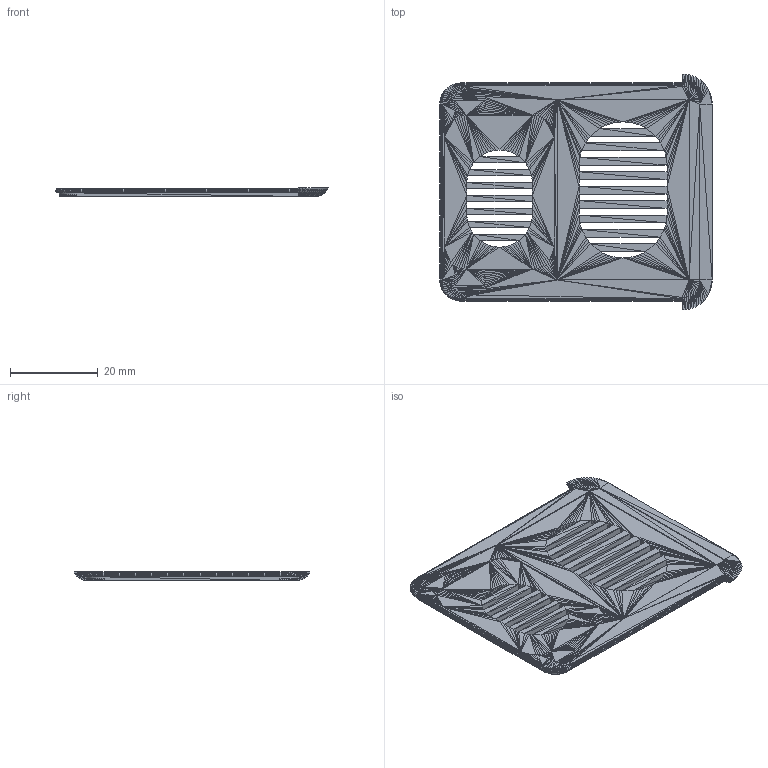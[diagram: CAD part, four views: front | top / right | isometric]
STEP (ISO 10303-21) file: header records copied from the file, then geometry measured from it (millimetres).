
FILE_DESCRIPTION((''),'2;1');
FILE_NAME('x(1)(1)', '2025-04-14T08:14:19', (''), (''), 'ImageToStl.com STEP Converter','', '');
FILE_SCHEMA(('AUTOMOTIVE_DESIGN_CC2'));
Length unit declared in the file: metre
Products named in the file (1): product0
Bounding box: 61.9 x 53.63 x 2 mm (x, y, z)
Surface area: 6637.3 mm2 (no closed solid volume)
Topology: 0 solids, 4280 shells, 4280 faces, 12840 edges, 2102 vertices
Faces by surface type: plane 4280
Entity records: 98392 total; most frequent: DIRECTION 21402, ORIENTED_EDGE 12840, EDGE_CURVE 12840, LINE 12840, VECTOR 12840, AXIS2_PLACEMENT_3D 4281, FACE_SURFACE 4280, PLANE 4280
